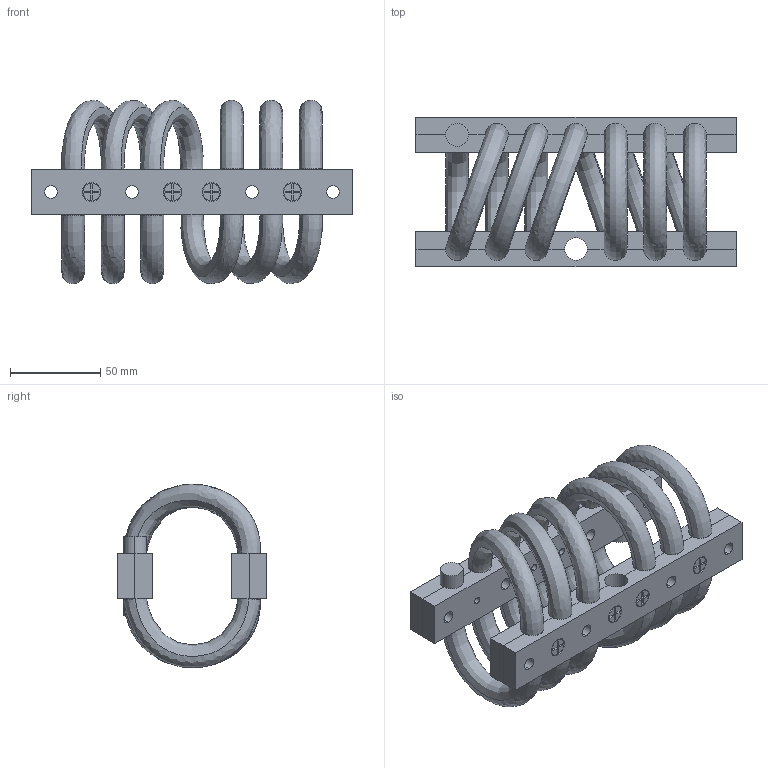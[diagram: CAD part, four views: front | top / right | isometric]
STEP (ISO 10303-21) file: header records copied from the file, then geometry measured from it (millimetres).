
FILE_DESCRIPTION (( 'STEP AP214' ), '1' );
FILE_NAME ('WR16-306-6DM.STEP', '2018-12-07T10:04:49', ( 'user' ), ( 'Microsoft' ), 'SwSTEP 2.0', 'SolidWorks 2016', '' );
FILE_SCHEMA (( 'AUTOMOTIVE_DESIGN' ));
Length unit declared in the file: millimetre
Products named in the file (1): WR16-306-6DM
Bounding box: 177.8 x 83 x 102 mm (x, y, z)
Volume: 341037.4 mm3; surface area: 132789.8 mm2
Topology: 26 solids, 26 shells, 484 faces, 1180 edges, 772 vertices
Faces by surface type: plane 216, cylinder 194, cone 48, bspline 26
Entity records: 27530 total; most frequent: CARTESIAN_POINT 15046, ORIENTED_EDGE 2360, DIRECTION 2348, EDGE_CURVE 1180, AXIS2_PLACEMENT_3D 843, VERTEX_POINT 772, LINE 662, VECTOR 662
